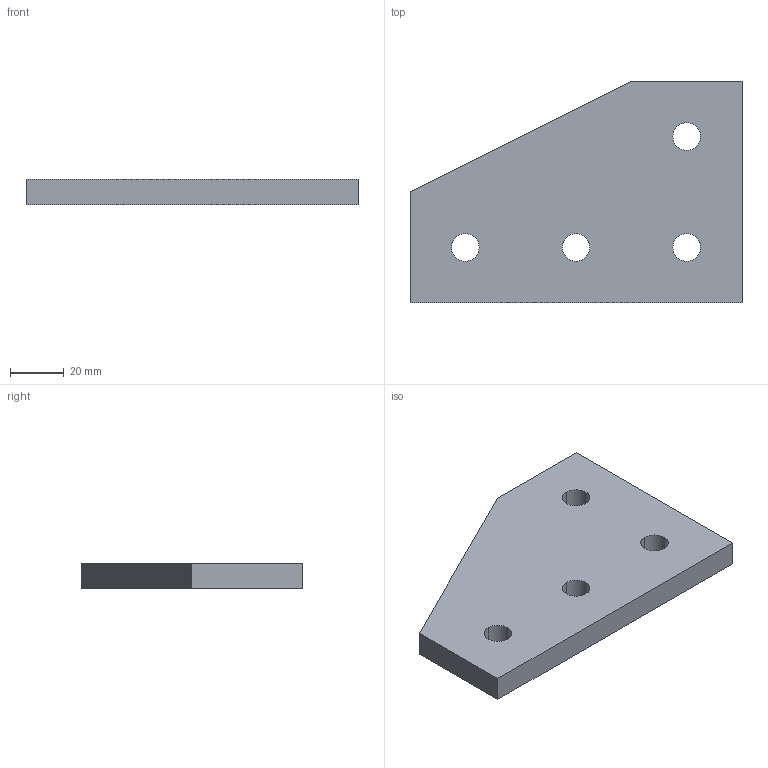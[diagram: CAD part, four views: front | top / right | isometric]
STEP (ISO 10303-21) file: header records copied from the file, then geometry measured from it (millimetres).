
FILE_DESCRIPTION(('TurboCAD Mac Pro'),'Build 980');
FILE_NAME('F20P-2516.stp',' ',(''),(''),'ACIS Interop','IMSI','TurboCAD Mac Pro BY IMSI, INCORPORATED');
FILE_SCHEMA(('automotive_design'));
Length unit declared in the file: inch
Products named in the file (2): 1; 2
Bounding box: 123.76 x 82.55 x 9.53 mm (x, y, z)
Volume: 77942 mm3; surface area: 21230 mm2
Topology: 1 solids, 1 shells, 23 faces, 63 edges, 42 vertices
Faces by surface type: bspline 16, plane 7
Entity records: 1323 total; most frequent: CARTESIAN_POINT 407, ORIENTED_EDGE 126, EDGE_CURVE 63, DIRECTION 54, B_SPLINE_CURVE_WITH_KNOTS 48, STYLED_ITEM 45, PRESENTATION_STYLE_ASSIGNMENT 45, COLOUR_RGB 45
